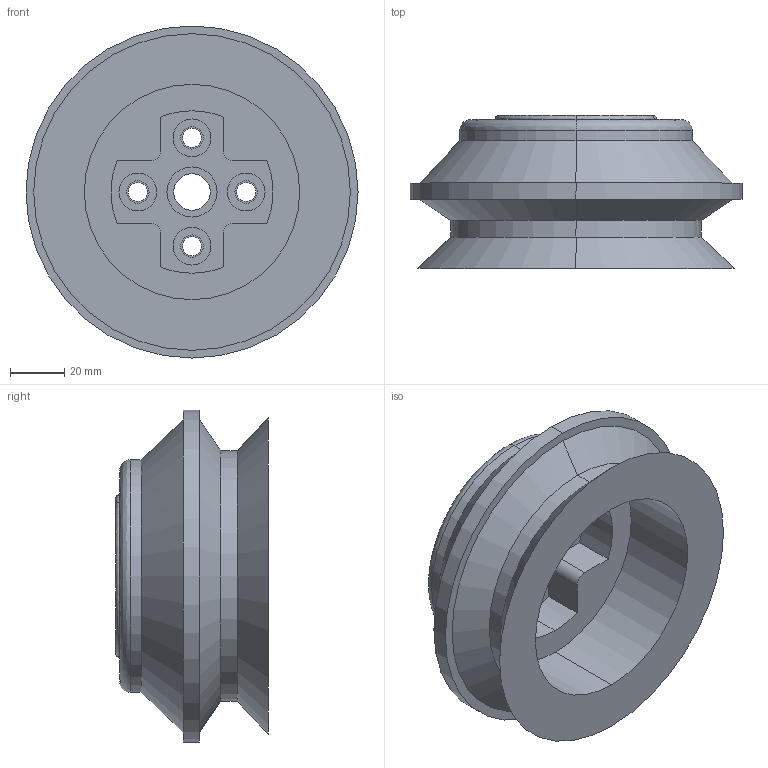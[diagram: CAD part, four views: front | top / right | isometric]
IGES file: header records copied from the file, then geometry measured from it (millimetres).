
Start section: 3D InterOp IGES (v. 2018 1.0.2), Spatial Corp. Copyright (c) 1999-2017.
Global section: file name: schmalz_10_01_06_00114_6o6e5gv4f8r8v9gbyopai6wkz.igs; native system: Spatial Corp.; preprocessor: 3D InterOp ACIS/IGES; author: TraceParts; organization: TraceParts S.A.; date: 20181107.080321; units: millimetre
Bounding box: 122.7 x 56.5 x 122.7 mm (x, y, z)
Surface area: 73313.2 mm2 (no closed solid volume)
Topology: 0 solids, 0 shells, 84 faces, 416 edges, 416 vertices
Faces by surface type: revolution 64, extrusion 20
